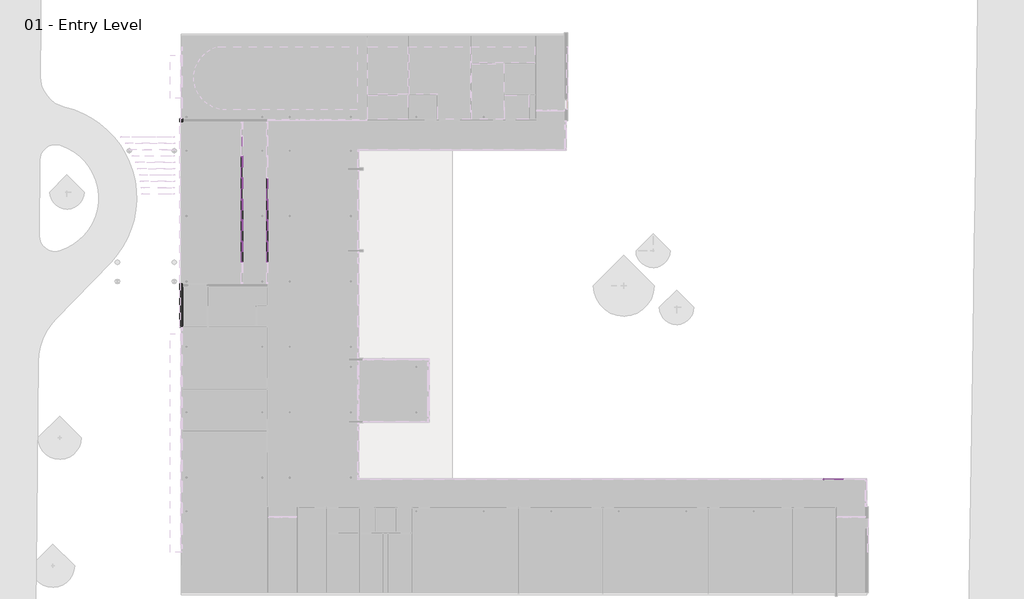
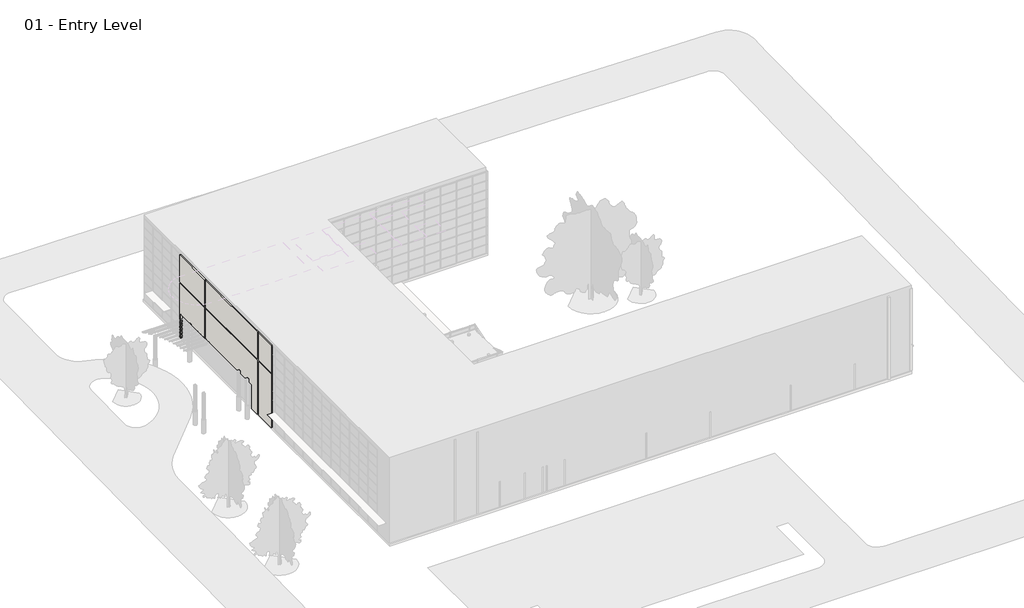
# One storey, part 22 of 34: 77 members, 36 plates, 3 doors, 1 wall.
"""IFC4 building model written with IfcOpenShell, lengths in millimetres."""

from ifc_helpers import new_model, si_unit, origin, place, context, project, spatial, faceted_brep, transform, mapped, element, save
from components import curtain_wall_dbl_glass_curtain_wall_dbl_glass_d7d74fe3, member_2b49869a, member_18e22e2d, member_9e90ae50, member_391b434c, member_5d67b9fc, member_0a82c195, member_a6658832, member_b37ae9b7, member_f95d5bf5, member_ec52078f, system_panel_glazed_1b9d6098, system_panel_glazed_70da479d, system_panel_glazed_c64d999e, system_panel_glazed_ebbf215a, system_panel_glazed_d3a4a7cd, system_panel_glazed_76019dd7, system_panel_glazed_96e4dd87, system_panel_glazed_3ba8046e, system_panel_glazed_56110c51, system_panel_glazed_266ebcb8

model = new_model("IFC4")

# Units and contexts
model_context = context("Model", 3, world=origin())
ifc_project = project(units=[si_unit("LENGTHUNIT", "METRE", prefix="MILLI")], contexts=[model_context])

# Site, building, storey
site = spatial("IfcSite", under=ifc_project)
building = spatial("IfcBuilding", under=site)
storey = spatial("IfcBuildingStorey", under=building, Name="01 - Entry Level", Elevation=0.0)

# Doors
placement = place(None, origin())
curtain_wall_dbl_glass_curtain_wall_dbl_glass_shape = curtain_wall_dbl_glass_curtain_wall_dbl_glass_d7d74fe3(model_context)
element("IfcDoor", 1, ObjectType="Curtain Wall Dbl Glass : Curtain Wall Dbl Glass", at=placement, inside=storey, context=model_context, shape_type="MappedRepresentation", body=[
    mapped(curtain_wall_dbl_glass_curtain_wall_dbl_glass_shape, transform((5982.6207476, 38976.225, 0.0), x_axis=(0.0, 1.0, 0.0), y_axis=(-1.0, 0.0, 0.0), z_axis=(0.0, 0.0, 1.0))),
])
element("IfcDoor", 2, ObjectType="Curtain Wall Dbl Glass : Curtain Wall Dbl Glass", at=placement, inside=storey, context=model_context, shape_type="MappedRepresentation", body=[
    mapped(curtain_wall_dbl_glass_curtain_wall_dbl_glass_shape, transform((5982.6207476, 41071.725, 0.0), x_axis=(0.0, 1.0, 0.0), y_axis=(-1.0, 0.0, 0.0), z_axis=(0.0, 0.0, 1.0))),
])
element("IfcDoor", 3, ObjectType="Curtain Wall Dbl Glass : Curtain Wall Dbl Glass", at=placement, inside=storey, context=model_context, shape_type="MappedRepresentation", body=[
    mapped(curtain_wall_dbl_glass_curtain_wall_dbl_glass_shape, transform((8421.0207476, 38976.225, 0.0), x_axis=(0.0, 1.0, 0.0), y_axis=(-1.0, 0.0, 0.0), z_axis=(0.0, 0.0, 1.0))),
])

# Members
member_shape = member_2b49869a(model_context)
element("IfcMember", 4, ObjectType="Rectangular Mullion : 2.5\" x 5\" rectangular", at=placement, inside=storey, context=model_context, shape_type="MappedRepresentation", body=[
    mapped(member_shape, transform((62040.4207476, 11001.3, 9753.6), x_axis=(-1.0, 0.0, 0.0), y_axis=(0.0, 1.0, 0.0), z_axis=(0.0, 0.0, -1.0))),
])
member_2_shape = member_18e22e2d(model_context)
element("IfcMember", 5, ObjectType="Rectangular Mullion : 2.5\" x 5\" rectangular", at=placement, inside=storey, context=model_context, shape_type="MappedRepresentation", body=[
    mapped(member_2_shape, transform((5982.6207476, 33927.975, 2438.4), x_axis=(0.0, 1.0, 0.0), y_axis=(1.0, 0.0, 0.0), z_axis=(0.0, 0.0, -1.0))),
])
element("IfcMember", 6, ObjectType="Rectangular Mullion : 2.5\" x 5\" rectangular", at=placement, inside=storey, context=model_context, shape_type="MappedRepresentation", body=[
    mapped(member_2_shape, transform((5982.6207476, 35959.975, 2438.4), x_axis=(0.0, 1.0, 0.0), y_axis=(1.0, 0.0, 0.0), z_axis=(0.0, 0.0, -1.0))),
])
element("IfcMember", 7, ObjectType="Rectangular Mullion : 2.5\" x 5\" rectangular", at=placement, inside=storey, context=model_context, shape_type="MappedRepresentation", body=[
    mapped(member_2_shape, transform((5982.6207476, 37928.475, 2438.4), x_axis=(0.0, 1.0, 0.0), y_axis=(1.0, 0.0, 0.0), z_axis=(0.0, 0.0, -1.0))),
])
element("IfcMember", 8, ObjectType="Rectangular Mullion : 2.5\" x 5\" rectangular", at=placement, inside=storey, context=model_context, shape_type="MappedRepresentation", body=[
    mapped(member_2_shape, transform((5982.6207476, 40023.975, 2438.4), x_axis=(0.0, 1.0, 0.0), y_axis=(1.0, 0.0, 0.0), z_axis=(0.0, 0.0, -1.0))),
])
element("IfcMember", 9, ObjectType="Rectangular Mullion : 2.5\" x 5\" rectangular", at=placement, inside=storey, context=model_context, shape_type="MappedRepresentation", body=[
    mapped(member_2_shape, transform((5982.6207476, 42119.475, 2438.4), x_axis=(0.0, 1.0, 0.0), y_axis=(1.0, 0.0, 0.0), z_axis=(0.0, 0.0, -1.0))),
])
element("IfcMember", 10, ObjectType="Rectangular Mullion : 2.5\" x 5\" rectangular", at=placement, inside=storey, context=model_context, shape_type="MappedRepresentation", body=[
    mapped(member_2_shape, transform((8421.0207476, 33927.975, 2438.4), x_axis=(0.0, 1.0, 0.0), y_axis=(1.0, 0.0, 0.0), z_axis=(0.0, 0.0, -1.0))),
])
element("IfcMember", 11, ObjectType="Rectangular Mullion : 2.5\" x 5\" rectangular", at=placement, inside=storey, context=model_context, shape_type="MappedRepresentation", body=[
    mapped(member_2_shape, transform((8421.0207476, 35959.975, 2438.4), x_axis=(0.0, 1.0, 0.0), y_axis=(1.0, 0.0, 0.0), z_axis=(0.0, 0.0, -1.0))),
])
element("IfcMember", 12, ObjectType="Rectangular Mullion : 2.5\" x 5\" rectangular", at=placement, inside=storey, context=model_context, shape_type="MappedRepresentation", body=[
    mapped(member_2_shape, transform((8421.0207476, 37928.475, 2438.4), x_axis=(0.0, 1.0, 0.0), y_axis=(1.0, 0.0, 0.0), z_axis=(0.0, 0.0, -1.0))),
])
member_3_shape = member_9e90ae50(model_context)
element("IfcMember", 13, ObjectType="Rectangular Mullion : 2.5\" x 5\" rectangular", at=placement, inside=storey, context=model_context, shape_type="MappedRepresentation", body=[
    mapped(member_3_shape, transform((62072.1707476, 11001.3, 6096.0), x_axis=(0.0, 0.0, 1.0), y_axis=(0.0, 1.0, 0.0), z_axis=(-1.0, 0.0, 0.0))),
])
element("IfcMember", 14, ObjectType="Rectangular Mullion : 2.5\" x 5\" rectangular", at=placement, inside=storey, context=model_context, shape_type="MappedRepresentation", body=[
    mapped(member_3_shape, transform((62072.1707476, 11001.3, 7315.2), x_axis=(0.0, 0.0, 1.0), y_axis=(0.0, 1.0, 0.0), z_axis=(-1.0, 0.0, 0.0))),
])
element("IfcMember", 15, ObjectType="Rectangular Mullion : 2.5\" x 5\" rectangular", at=placement, inside=storey, context=model_context, shape_type="MappedRepresentation", body=[
    mapped(member_3_shape, transform((62072.1707476, 11001.3, 8534.4), x_axis=(0.0, 0.0, 1.0), y_axis=(0.0, 1.0, 0.0), z_axis=(-1.0, 0.0, 0.0))),
])
element("IfcMember", 16, ObjectType="Rectangular Mullion : 2.5\" x 5\" rectangular", at=placement, inside=storey, context=model_context, shape_type="MappedRepresentation", body=[
    mapped(member_3_shape, transform((62072.1707476, 11001.3, 9753.6), x_axis=(0.0, 0.0, 1.0), y_axis=(0.0, 1.0, 0.0), z_axis=(-1.0, 0.0, 0.0))),
])
element("IfcMember", 17, ObjectType="Rectangular Mullion : 2.5\" x 5\" rectangular", at=placement, inside=storey, context=model_context, shape_type="MappedRepresentation", body=[
    mapped(member_shape, transform((62040.4207476, 11001.3, 0.0), x_axis=(-1.0, 0.0, 0.0), y_axis=(0.0, 1.0, 0.0), z_axis=(0.0, 0.0, -1.0))),
])
element("IfcMember", 18, ObjectType="Rectangular Mullion : 2.5\" x 5\" rectangular", at=placement, inside=storey, context=model_context, shape_type="MappedRepresentation", body=[
    mapped(member_shape, transform((62040.4207476, 11001.3, 1219.2), x_axis=(-1.0, 0.0, 0.0), y_axis=(0.0, 1.0, 0.0), z_axis=(0.0, 0.0, -1.0))),
])
element("IfcMember", 19, ObjectType="Rectangular Mullion : 2.5\" x 5\" rectangular", at=placement, inside=storey, context=model_context, shape_type="MappedRepresentation", body=[
    mapped(member_shape, transform((62040.4207476, 11001.3, 2438.4), x_axis=(-1.0, 0.0, 0.0), y_axis=(0.0, 1.0, 0.0), z_axis=(0.0, 0.0, -1.0))),
])
element("IfcMember", 20, ObjectType="Rectangular Mullion : 2.5\" x 5\" rectangular", at=placement, inside=storey, context=model_context, shape_type="MappedRepresentation", body=[
    mapped(member_shape, transform((62040.4207476, 11001.3, 3657.6), x_axis=(-1.0, 0.0, 0.0), y_axis=(0.0, 1.0, 0.0), z_axis=(0.0, 0.0, -1.0))),
])
element("IfcMember", 21, ObjectType="Rectangular Mullion : 2.5\" x 5\" rectangular", at=placement, inside=storey, context=model_context, shape_type="MappedRepresentation", body=[
    mapped(member_shape, transform((62040.4207476, 11001.3, 4876.8), x_axis=(-1.0, 0.0, 0.0), y_axis=(0.0, 1.0, 0.0), z_axis=(0.0, 0.0, -1.0))),
])
element("IfcMember", 22, ObjectType="Rectangular Mullion : 2.5\" x 5\" rectangular", at=placement, inside=storey, context=model_context, shape_type="MappedRepresentation", body=[
    mapped(member_shape, transform((62040.4207476, 11001.3, 6096.0), x_axis=(-1.0, 0.0, 0.0), y_axis=(0.0, 1.0, 0.0), z_axis=(0.0, 0.0, -1.0))),
])
element("IfcMember", 23, ObjectType="Rectangular Mullion : 2.5\" x 5\" rectangular", at=placement, inside=storey, context=model_context, shape_type="MappedRepresentation", body=[
    mapped(member_shape, transform((62040.4207476, 11001.3, 7315.2), x_axis=(-1.0, 0.0, 0.0), y_axis=(0.0, 1.0, 0.0), z_axis=(0.0, 0.0, -1.0))),
])
element("IfcMember", 24, ObjectType="Rectangular Mullion : 2.5\" x 5\" rectangular", at=placement, inside=storey, context=model_context, shape_type="MappedRepresentation", body=[
    mapped(member_shape, transform((62040.4207476, 11001.3, 8534.4), x_axis=(-1.0, 0.0, 0.0), y_axis=(0.0, 1.0, 0.0), z_axis=(0.0, 0.0, -1.0))),
])
member_4_shape = member_391b434c(model_context)
element("IfcMember", 25, ObjectType="Rectangular Mullion : 2.5\" x 5\" rectangular", at=placement, inside=storey, context=model_context, shape_type="MappedRepresentation", body=[
    mapped(member_4_shape, transform((5982.6207476, 33896.225, 3403.6), x_axis=(0.0, 0.0, 1.0), y_axis=(1.0, 0.0, 0.0), z_axis=(0.0, 1.0, 0.0))),
])
element("IfcMember", 26, ObjectType="Rectangular Mullion : 2.5\" x 5\" rectangular", at=placement, inside=storey, context=model_context, shape_type="MappedRepresentation", body=[
    mapped(member_4_shape, transform((5982.6207476, 35928.225, 3403.6), x_axis=(0.0, 0.0, 1.0), y_axis=(1.0, 0.0, 0.0), z_axis=(0.0, 1.0, 0.0))),
])
element("IfcMember", 27, ObjectType="Rectangular Mullion : 2.5\" x 5\" rectangular", at=placement, inside=storey, context=model_context, shape_type="MappedRepresentation", body=[
    mapped(member_4_shape, transform((8421.0207476, 33896.225, 3403.6), x_axis=(0.0, 0.0, 1.0), y_axis=(1.0, 0.0, 0.0), z_axis=(0.0, 1.0, 0.0))),
])
element("IfcMember", 28, ObjectType="Rectangular Mullion : 2.5\" x 5\" rectangular", at=placement, inside=storey, context=model_context, shape_type="MappedRepresentation", body=[
    mapped(member_4_shape, transform((8421.0207476, 35928.225, 3403.6), x_axis=(0.0, 0.0, 1.0), y_axis=(1.0, 0.0, 0.0), z_axis=(0.0, 1.0, 0.0))),
])
element("IfcMember", 29, ObjectType="Rectangular Mullion : 2.5\" x 5\" rectangular", at=placement, inside=storey, context=model_context, shape_type="MappedRepresentation", body=[
    mapped(member_4_shape, transform((5982.6207476, 33959.725, 0.0), x_axis=(0.0, 0.0, -1.0), y_axis=(1.0, 0.0, 0.0), z_axis=(0.0, -1.0, 0.0))),
])
element("IfcMember", 30, ObjectType="Rectangular Mullion : 2.5\" x 5\" rectangular", at=placement, inside=storey, context=model_context, shape_type="MappedRepresentation", body=[
    mapped(member_4_shape, transform((8421.0207476, 33959.725, 0.0), x_axis=(0.0, 0.0, -1.0), y_axis=(1.0, 0.0, 0.0), z_axis=(0.0, -1.0, 0.0))),
])
element("IfcMember", 31, ObjectType="Rectangular Mullion : 2.5\" x 5\" rectangular", at=placement, inside=storey, context=model_context, shape_type="MappedRepresentation", body=[
    mapped(member_3_shape, transform((5982.6207476, 33896.225, 1219.2), x_axis=(0.0, 0.0, 1.0), y_axis=(1.0, 0.0, 0.0), z_axis=(0.0, 1.0, 0.0))),
])
element("IfcMember", 32, ObjectType="Rectangular Mullion : 2.5\" x 5\" rectangular", at=placement, inside=storey, context=model_context, shape_type="MappedRepresentation", body=[
    mapped(member_3_shape, transform((5982.6207476, 35928.225, 1219.2), x_axis=(0.0, 0.0, 1.0), y_axis=(1.0, 0.0, 0.0), z_axis=(0.0, 1.0, 0.0))),
])
element("IfcMember", 33, ObjectType="Rectangular Mullion : 2.5\" x 5\" rectangular", at=placement, inside=storey, context=model_context, shape_type="MappedRepresentation", body=[
    mapped(member_3_shape, transform((5982.6207476, 33896.225, 2438.4), x_axis=(0.0, 0.0, 1.0), y_axis=(1.0, 0.0, 0.0), z_axis=(0.0, 1.0, 0.0))),
])
element("IfcMember", 34, ObjectType="Rectangular Mullion : 2.5\" x 5\" rectangular", at=placement, inside=storey, context=model_context, shape_type="MappedRepresentation", body=[
    mapped(member_3_shape, transform((5982.6207476, 35928.225, 2438.4), x_axis=(0.0, 0.0, 1.0), y_axis=(1.0, 0.0, 0.0), z_axis=(0.0, 1.0, 0.0))),
])
element("IfcMember", 35, ObjectType="Rectangular Mullion : 2.5\" x 5\" rectangular", at=placement, inside=storey, context=model_context, shape_type="MappedRepresentation", body=[
    mapped(member_3_shape, transform((8421.0207476, 33896.225, 1219.2), x_axis=(0.0, 0.0, 1.0), y_axis=(1.0, 0.0, 0.0), z_axis=(0.0, 1.0, 0.0))),
])
element("IfcMember", 36, ObjectType="Rectangular Mullion : 2.5\" x 5\" rectangular", at=placement, inside=storey, context=model_context, shape_type="MappedRepresentation", body=[
    mapped(member_3_shape, transform((8421.0207476, 35928.225, 1219.2), x_axis=(0.0, 0.0, 1.0), y_axis=(1.0, 0.0, 0.0), z_axis=(0.0, 1.0, 0.0))),
])
element("IfcMember", 37, ObjectType="Rectangular Mullion : 2.5\" x 5\" rectangular", at=placement, inside=storey, context=model_context, shape_type="MappedRepresentation", body=[
    mapped(member_3_shape, transform((8421.0207476, 33896.225, 2438.4), x_axis=(0.0, 0.0, 1.0), y_axis=(1.0, 0.0, 0.0), z_axis=(0.0, 1.0, 0.0))),
])
element("IfcMember", 38, ObjectType="Rectangular Mullion : 2.5\" x 5\" rectangular", at=placement, inside=storey, context=model_context, shape_type="MappedRepresentation", body=[
    mapped(member_3_shape, transform((8421.0207476, 35928.225, 2438.4), x_axis=(0.0, 0.0, 1.0), y_axis=(1.0, 0.0, 0.0), z_axis=(0.0, 1.0, 0.0))),
])
element("IfcMember", 39, ObjectType="Rectangular Mullion : 2.5\" x 5\" rectangular", at=placement, inside=storey, context=model_context, shape_type="MappedRepresentation", body=[
    mapped(member_shape, transform((5982.6207476, 33927.975, 0.0), x_axis=(0.0, 1.0, 0.0), y_axis=(1.0, 0.0, 0.0), z_axis=(0.0, 0.0, -1.0))),
])
element("IfcMember", 40, ObjectType="Rectangular Mullion : 2.5\" x 5\" rectangular", at=placement, inside=storey, context=model_context, shape_type="MappedRepresentation", body=[
    mapped(member_shape, transform((5982.6207476, 35959.975, 0.0), x_axis=(0.0, 1.0, 0.0), y_axis=(1.0, 0.0, 0.0), z_axis=(0.0, 0.0, -1.0))),
])
element("IfcMember", 41, ObjectType="Rectangular Mullion : 2.5\" x 5\" rectangular", at=placement, inside=storey, context=model_context, shape_type="MappedRepresentation", body=[
    mapped(member_shape, transform((5982.6207476, 37928.475, 0.0), x_axis=(0.0, 1.0, 0.0), y_axis=(1.0, 0.0, 0.0), z_axis=(0.0, 0.0, -1.0))),
])
element("IfcMember", 42, ObjectType="Rectangular Mullion : 2.5\" x 5\" rectangular", at=placement, inside=storey, context=model_context, shape_type="MappedRepresentation", body=[
    mapped(member_shape, transform((5982.6207476, 42119.475, 0.0), x_axis=(0.0, 1.0, 0.0), y_axis=(1.0, 0.0, 0.0), z_axis=(0.0, 0.0, -1.0))),
])
element("IfcMember", 43, ObjectType="Rectangular Mullion : 2.5\" x 5\" rectangular", at=placement, inside=storey, context=model_context, shape_type="MappedRepresentation", body=[
    mapped(member_shape, transform((8421.0207476, 33927.975, 0.0), x_axis=(0.0, 1.0, 0.0), y_axis=(1.0, 0.0, 0.0), z_axis=(0.0, 0.0, -1.0))),
])
element("IfcMember", 44, ObjectType="Rectangular Mullion : 2.5\" x 5\" rectangular", at=placement, inside=storey, context=model_context, shape_type="MappedRepresentation", body=[
    mapped(member_shape, transform((8421.0207476, 35959.975, 0.0), x_axis=(0.0, 1.0, 0.0), y_axis=(1.0, 0.0, 0.0), z_axis=(0.0, 0.0, -1.0))),
])
element("IfcMember", 45, ObjectType="Rectangular Mullion : 2.5\" x 5\" rectangular", at=placement, inside=storey, context=model_context, shape_type="MappedRepresentation", body=[
    mapped(member_shape, transform((8421.0207476, 37928.475, 0.0), x_axis=(0.0, 1.0, 0.0), y_axis=(1.0, 0.0, 0.0), z_axis=(0.0, 0.0, -1.0))),
])
element("IfcMember", 46, ObjectType="Rectangular Mullion : 2.5\" x 5\" rectangular", at=placement, inside=storey, context=model_context, shape_type="MappedRepresentation", body=[
    mapped(member_shape, transform((5982.6207476, 40023.975, 0.0), x_axis=(0.0, 1.0, 0.0), y_axis=(1.0, 0.0, 0.0), z_axis=(0.0, 0.0, -1.0))),
])
member_5_shape = member_5d67b9fc(model_context)
element("IfcMember", 47, ObjectType="Rectangular Mullion : 2.5\" x 5\" rectangular", at=placement, inside=storey, context=model_context, shape_type="MappedRepresentation", body=[
    mapped(member_5_shape, transform((5982.6207476, 37928.475, 2165.35), x_axis=(0.0, 1.0, 0.0), y_axis=(1.0, 0.0, 0.0), z_axis=(0.0, 0.0, -1.0))),
])
element("IfcMember", 48, ObjectType="Rectangular Mullion : 2.5\" x 5\" rectangular", at=placement, inside=storey, context=model_context, shape_type="MappedRepresentation", body=[
    mapped(member_5_shape, transform((5982.6207476, 40023.975, 2165.35), x_axis=(0.0, 1.0, 0.0), y_axis=(1.0, 0.0, 0.0), z_axis=(0.0, 0.0, -1.0))),
])
element("IfcMember", 49, ObjectType="Rectangular Mullion : 2.5\" x 5\" rectangular", at=placement, inside=storey, context=model_context, shape_type="MappedRepresentation", body=[
    mapped(member_5_shape, transform((5982.6207476, 42119.475, 2165.35), x_axis=(0.0, 1.0, 0.0), y_axis=(1.0, 0.0, 0.0), z_axis=(0.0, 0.0, -1.0))),
])
element("IfcMember", 50, ObjectType="Rectangular Mullion : 2.5\" x 5\" rectangular", at=placement, inside=storey, context=model_context, shape_type="MappedRepresentation", body=[
    mapped(member_5_shape, transform((8421.0207476, 37928.475, 2165.35), x_axis=(0.0, 1.0, 0.0), y_axis=(1.0, 0.0, 0.0), z_axis=(0.0, 0.0, -1.0))),
])
element("IfcMember", 51, ObjectType="Rectangular Mullion : 2.5\" x 5\" rectangular", at=placement, inside=storey, context=model_context, shape_type="MappedRepresentation", body=[
    mapped(member_5_shape, transform((5982.6207476, 33927.975, 2165.35), x_axis=(0.0, 1.0, 0.0), y_axis=(1.0, 0.0, 0.0), z_axis=(0.0, 0.0, -1.0))),
])
element("IfcMember", 52, ObjectType="Rectangular Mullion : 2.5\" x 5\" rectangular", at=placement, inside=storey, context=model_context, shape_type="MappedRepresentation", body=[
    mapped(member_5_shape, transform((5982.6207476, 35959.975, 2165.35), x_axis=(0.0, 1.0, 0.0), y_axis=(1.0, 0.0, 0.0), z_axis=(0.0, 0.0, -1.0))),
])
element("IfcMember", 53, ObjectType="Rectangular Mullion : 2.5\" x 5\" rectangular", at=placement, inside=storey, context=model_context, shape_type="MappedRepresentation", body=[
    mapped(member_5_shape, transform((8421.0207476, 33927.975, 2165.35), x_axis=(0.0, 1.0, 0.0), y_axis=(1.0, 0.0, 0.0), z_axis=(0.0, 0.0, -1.0))),
])
element("IfcMember", 54, ObjectType="Rectangular Mullion : 2.5\" x 5\" rectangular", at=placement, inside=storey, context=model_context, shape_type="MappedRepresentation", body=[
    mapped(member_5_shape, transform((8421.0207476, 35959.975, 2165.35), x_axis=(0.0, 1.0, 0.0), y_axis=(1.0, 0.0, 0.0), z_axis=(0.0, 0.0, -1.0))),
])
member_6_shape = member_0a82c195(model_context)
element("IfcMember", 55, ObjectType="Rectangular Mullion : 2.5\" x 5\" rectangular", at=placement, inside=storey, context=model_context, shape_type="MappedRepresentation", body=[
    mapped(member_6_shape, transform((5982.6207476, 39992.225, 3403.6), x_axis=(0.0, 0.0, 1.0), y_axis=(1.0, 0.0, 0.0), z_axis=(0.0, 1.0, 0.0))),
])
element("IfcMember", 56, ObjectType="Rectangular Mullion : 2.5\" x 5\" rectangular", at=placement, inside=storey, context=model_context, shape_type="MappedRepresentation", body=[
    mapped(member_6_shape, transform((5982.6207476, 42087.725, 3403.6), x_axis=(0.0, 0.0, 1.0), y_axis=(1.0, 0.0, 0.0), z_axis=(0.0, 1.0, 0.0))),
])
element("IfcMember", 57, ObjectType="Rectangular Mullion : 2.5\" x 5\" rectangular", at=placement, inside=storey, context=model_context, shape_type="MappedRepresentation", body=[
    mapped(member_6_shape, transform((8421.0207476, 39992.225, 3403.6), x_axis=(0.0, 0.0, 1.0), y_axis=(1.0, 0.0, 0.0), z_axis=(0.0, 1.0, 0.0))),
])
member_7_shape = member_a6658832(model_context)
element("IfcMember", 58, ObjectType="Rectangular Mullion : 2.5\" x 5\" rectangular", at=placement, inside=storey, context=model_context, shape_type="MappedRepresentation", body=[
    mapped(member_7_shape, transform((5982.6207476, 37896.725, 3403.6), x_axis=(0.0, 0.0, 1.0), y_axis=(1.0, 0.0, 0.0), z_axis=(0.0, 1.0, 0.0))),
])
element("IfcMember", 59, ObjectType="Rectangular Mullion : 2.5\" x 5\" rectangular", at=placement, inside=storey, context=model_context, shape_type="MappedRepresentation", body=[
    mapped(member_7_shape, transform((8421.0207476, 37896.725, 3403.6), x_axis=(0.0, 0.0, 1.0), y_axis=(1.0, 0.0, 0.0), z_axis=(0.0, 1.0, 0.0))),
])
element("IfcMember", 60, ObjectType="Rectangular Mullion : 2.5\" x 5\" rectangular", at=placement, inside=storey, context=model_context, shape_type="MappedRepresentation", body=[
    mapped(member_7_shape, transform((5982.6207476, 35991.725, 0.0), x_axis=(0.0, 0.0, -1.0), y_axis=(1.0, 0.0, 0.0), z_axis=(0.0, -1.0, 0.0))),
])
element("IfcMember", 61, ObjectType="Rectangular Mullion : 2.5\" x 5\" rectangular", at=placement, inside=storey, context=model_context, shape_type="MappedRepresentation", body=[
    mapped(member_7_shape, transform((5982.6207476, 42151.225, 0.0), x_axis=(0.0, 0.0, -1.0), y_axis=(1.0, 0.0, 0.0), z_axis=(0.0, -1.0, 0.0))),
])
element("IfcMember", 62, ObjectType="Rectangular Mullion : 2.5\" x 5\" rectangular", at=placement, inside=storey, context=model_context, shape_type="MappedRepresentation", body=[
    mapped(member_7_shape, transform((8421.0207476, 35991.725, 0.0), x_axis=(0.0, 0.0, -1.0), y_axis=(1.0, 0.0, 0.0), z_axis=(0.0, -1.0, 0.0))),
])
member_8_shape = member_b37ae9b7(model_context)
element("IfcMember", 63, ObjectType="Rectangular Mullion : 2.5\" x 5\" rectangular", at=placement, inside=storey, context=model_context, shape_type="MappedRepresentation", body=[
    mapped(member_8_shape, transform((5982.6207476, 37896.725, 1219.2), x_axis=(0.0, 0.0, 1.0), y_axis=(1.0, 0.0, 0.0), z_axis=(0.0, 1.0, 0.0))),
])
element("IfcMember", 64, ObjectType="Rectangular Mullion : 2.5\" x 5\" rectangular", at=placement, inside=storey, context=model_context, shape_type="MappedRepresentation", body=[
    mapped(member_8_shape, transform((5982.6207476, 37896.725, 2438.4), x_axis=(0.0, 0.0, 1.0), y_axis=(1.0, 0.0, 0.0), z_axis=(0.0, 1.0, 0.0))),
])
element("IfcMember", 65, ObjectType="Rectangular Mullion : 2.5\" x 5\" rectangular", at=placement, inside=storey, context=model_context, shape_type="MappedRepresentation", body=[
    mapped(member_8_shape, transform((8421.0207476, 37896.725, 1219.2), x_axis=(0.0, 0.0, 1.0), y_axis=(1.0, 0.0, 0.0), z_axis=(0.0, 1.0, 0.0))),
])
element("IfcMember", 66, ObjectType="Rectangular Mullion : 2.5\" x 5\" rectangular", at=placement, inside=storey, context=model_context, shape_type="MappedRepresentation", body=[
    mapped(member_8_shape, transform((8421.0207476, 37896.725, 2438.4), x_axis=(0.0, 0.0, 1.0), y_axis=(1.0, 0.0, 0.0), z_axis=(0.0, 1.0, 0.0))),
])
member_9_shape = member_f95d5bf5(model_context)
element("IfcMember", 67, ObjectType="Rectangular Mullion : 2.5\" x 5\" rectangular", at=placement, inside=storey, context=model_context, shape_type="MappedRepresentation", body=[
    mapped(member_9_shape, transform((5982.6207476, 39992.225, 2438.4), x_axis=(0.0, 0.0, 1.0), y_axis=(1.0, 0.0, 0.0), z_axis=(0.0, 1.0, 0.0))),
])
element("IfcMember", 68, ObjectType="Rectangular Mullion : 2.5\" x 5\" rectangular", at=placement, inside=storey, context=model_context, shape_type="MappedRepresentation", body=[
    mapped(member_9_shape, transform((5982.6207476, 42087.725, 2438.4), x_axis=(0.0, 0.0, 1.0), y_axis=(1.0, 0.0, 0.0), z_axis=(0.0, 1.0, 0.0))),
])
element("IfcMember", 69, ObjectType="Rectangular Mullion : 2.5\" x 5\" rectangular", at=placement, inside=storey, context=model_context, shape_type="MappedRepresentation", body=[
    mapped(member_9_shape, transform((5982.6207476, 42087.725, 2165.35), x_axis=(0.0, 0.0, 1.0), y_axis=(1.0, 0.0, 0.0), z_axis=(0.0, 1.0, 0.0))),
])
element("IfcMember", 70, ObjectType="Rectangular Mullion : 2.5\" x 5\" rectangular", at=placement, inside=storey, context=model_context, shape_type="MappedRepresentation", body=[
    mapped(member_9_shape, transform((5982.6207476, 39992.225, 2165.35), x_axis=(0.0, 0.0, 1.0), y_axis=(1.0, 0.0, 0.0), z_axis=(0.0, 1.0, 0.0))),
])
element("IfcMember", 71, ObjectType="Rectangular Mullion : 2.5\" x 5\" rectangular", at=placement, inside=storey, context=model_context, shape_type="MappedRepresentation", body=[
    mapped(member_9_shape, transform((8421.0207476, 39992.225, 2438.4), x_axis=(0.0, 0.0, 1.0), y_axis=(1.0, 0.0, 0.0), z_axis=(0.0, 1.0, 0.0))),
])
element("IfcMember", 72, ObjectType="Rectangular Mullion : 2.5\" x 5\" rectangular", at=placement, inside=storey, context=model_context, shape_type="MappedRepresentation", body=[
    mapped(member_9_shape, transform((8421.0207476, 39992.225, 2165.35), x_axis=(0.0, 0.0, 1.0), y_axis=(1.0, 0.0, 0.0), z_axis=(0.0, 1.0, 0.0))),
])
member_10_shape = member_ec52078f(model_context)
element("IfcMember", 73, ObjectType="Rectangular Mullion : 2.5\" x 5\" rectangular", at=placement, inside=storey, context=model_context, shape_type="MappedRepresentation", body=[
    mapped(member_10_shape, transform((5982.6207476, 33927.975, 1219.2), x_axis=(0.0, 1.0, 0.0), y_axis=(1.0, 0.0, 0.0), z_axis=(0.0, 0.0, -1.0))),
])
element("IfcMember", 74, ObjectType="Rectangular Mullion : 2.5\" x 5\" rectangular", at=placement, inside=storey, context=model_context, shape_type="MappedRepresentation", body=[
    mapped(member_10_shape, transform((5982.6207476, 35959.975, 1219.2), x_axis=(0.0, 1.0, 0.0), y_axis=(1.0, 0.0, 0.0), z_axis=(0.0, 0.0, -1.0))),
])
element("IfcMember", 75, ObjectType="Rectangular Mullion : 2.5\" x 5\" rectangular", at=placement, inside=storey, context=model_context, shape_type="MappedRepresentation", body=[
    mapped(member_10_shape, transform((8421.0207476, 33927.975, 1219.2), x_axis=(0.0, 1.0, 0.0), y_axis=(1.0, 0.0, 0.0), z_axis=(0.0, 0.0, -1.0))),
])
element("IfcMember", 76, ObjectType="Rectangular Mullion : 2.5\" x 5\" rectangular", at=placement, inside=storey, context=model_context, shape_type="MappedRepresentation", body=[
    mapped(member_10_shape, transform((8421.0207476, 35959.975, 1219.2), x_axis=(0.0, 1.0, 0.0), y_axis=(1.0, 0.0, 0.0), z_axis=(0.0, 0.0, -1.0))),
])
element("IfcMember", 77, ObjectType="Rectangular Mullion : 2.5\" x 5\" rectangular", at=placement, inside=storey, context=model_context, shape_type="MappedRepresentation", body=[
    mapped(member_10_shape, transform((5982.6207476, 40023.975, 1219.2), x_axis=(0.0, 1.0, 0.0), y_axis=(1.0, 0.0, 0.0), z_axis=(0.0, 0.0, -1.0))),
])
element("IfcMember", 78, ObjectType="Rectangular Mullion : 2.5\" x 5\" rectangular", at=placement, inside=storey, context=model_context, shape_type="MappedRepresentation", body=[
    mapped(member_10_shape, transform((5982.6207476, 37928.475, 1219.2), x_axis=(0.0, 1.0, 0.0), y_axis=(1.0, 0.0, 0.0), z_axis=(0.0, 0.0, -1.0))),
])
element("IfcMember", 79, ObjectType="Rectangular Mullion : 2.5\" x 5\" rectangular", at=placement, inside=storey, context=model_context, shape_type="MappedRepresentation", body=[
    mapped(member_10_shape, transform((5982.6207476, 42119.475, 1219.2), x_axis=(0.0, 1.0, 0.0), y_axis=(1.0, 0.0, 0.0), z_axis=(0.0, 0.0, -1.0))),
])
element("IfcMember", 80, ObjectType="Rectangular Mullion : 2.5\" x 5\" rectangular", at=placement, inside=storey, context=model_context, shape_type="MappedRepresentation", body=[
    mapped(member_10_shape, transform((8421.0207476, 37928.475, 1219.2), x_axis=(0.0, 1.0, 0.0), y_axis=(1.0, 0.0, 0.0), z_axis=(0.0, 0.0, -1.0))),
])

# Plates
system_panel_glazed_shape = system_panel_glazed_1b9d6098(model_context)
element("IfcPlate", 81, ObjectType="System Panel : Glazed", at=placement, inside=storey, context=model_context, shape_type="MappedRepresentation", body=[
    mapped(system_panel_glazed_shape, transform((63056.4207476, 11001.3, 63.5), x_axis=(-1.0, 0.0, 0.0), y_axis=(0.0, -1.0, 0.0), z_axis=(0.0, 0.0, 1.0))),
])
element("IfcPlate", 82, ObjectType="System Panel : Glazed", at=placement, inside=storey, context=model_context, shape_type="MappedRepresentation", body=[
    mapped(system_panel_glazed_shape, transform((63056.4207476, 11001.3, 9785.35), x_axis=(-1.0, 0.0, 0.0), y_axis=(0.0, -1.0, 0.0), z_axis=(0.0, 0.0, 1.0))),
])
system_panel_glazed_2_shape = system_panel_glazed_70da479d(model_context)
element("IfcPlate", 83, ObjectType="System Panel : Glazed", at=placement, inside=storey, context=model_context, shape_type="MappedRepresentation", body=[
    mapped(system_panel_glazed_2_shape, transform((63056.4207476, 11001.3, 1250.95), x_axis=(-1.0, 0.0, 0.0), y_axis=(0.0, -1.0, 0.0), z_axis=(0.0, 0.0, 1.0))),
])
element("IfcPlate", 84, ObjectType="System Panel : Glazed", at=placement, inside=storey, context=model_context, shape_type="MappedRepresentation", body=[
    mapped(system_panel_glazed_2_shape, transform((63056.4207476, 11001.3, 2470.15), x_axis=(-1.0, 0.0, 0.0), y_axis=(0.0, -1.0, 0.0), z_axis=(0.0, 0.0, 1.0))),
])
element("IfcPlate", 85, ObjectType="System Panel : Glazed", at=placement, inside=storey, context=model_context, shape_type="MappedRepresentation", body=[
    mapped(system_panel_glazed_2_shape, transform((63056.4207476, 11001.3, 3689.35), x_axis=(-1.0, 0.0, 0.0), y_axis=(0.0, -1.0, 0.0), z_axis=(0.0, 0.0, 1.0))),
])
element("IfcPlate", 86, ObjectType="System Panel : Glazed", at=placement, inside=storey, context=model_context, shape_type="MappedRepresentation", body=[
    mapped(system_panel_glazed_2_shape, transform((63056.4207476, 11001.3, 4908.55), x_axis=(-1.0, 0.0, 0.0), y_axis=(0.0, -1.0, 0.0), z_axis=(0.0, 0.0, 1.0))),
])
element("IfcPlate", 87, ObjectType="System Panel : Glazed", at=placement, inside=storey, context=model_context, shape_type="MappedRepresentation", body=[
    mapped(system_panel_glazed_2_shape, transform((63056.4207476, 11001.3, 6127.75), x_axis=(-1.0, 0.0, 0.0), y_axis=(0.0, -1.0, 0.0), z_axis=(0.0, 0.0, 1.0))),
])
element("IfcPlate", 88, ObjectType="System Panel : Glazed", at=placement, inside=storey, context=model_context, shape_type="MappedRepresentation", body=[
    mapped(system_panel_glazed_2_shape, transform((63056.4207476, 11001.3, 7346.95), x_axis=(-1.0, 0.0, 0.0), y_axis=(0.0, -1.0, 0.0), z_axis=(0.0, 0.0, 1.0))),
])
element("IfcPlate", 89, ObjectType="System Panel : Glazed", at=placement, inside=storey, context=model_context, shape_type="MappedRepresentation", body=[
    mapped(system_panel_glazed_2_shape, transform((63056.4207476, 11001.3, 8566.15), x_axis=(-1.0, 0.0, 0.0), y_axis=(0.0, -1.0, 0.0), z_axis=(0.0, 0.0, 1.0))),
])
system_panel_glazed_3_shape = system_panel_glazed_c64d999e(model_context)
element("IfcPlate", 90, ObjectType="System Panel : Glazed", at=placement, inside=storey, context=model_context, shape_type="MappedRepresentation", body=[
    mapped(system_panel_glazed_3_shape, transform((5982.6207476, 32911.975, 63.5), x_axis=(0.0, 1.0, 0.0), y_axis=(-1.0, 0.0, 0.0), z_axis=(0.0, 0.0, 1.0))),
])
element("IfcPlate", 91, ObjectType="System Panel : Glazed", at=placement, inside=storey, context=model_context, shape_type="MappedRepresentation", body=[
    mapped(system_panel_glazed_3_shape, transform((5982.6207476, 34943.975, 63.5), x_axis=(0.0, 1.0, 0.0), y_axis=(-1.0, 0.0, 0.0), z_axis=(0.0, 0.0, 1.0))),
])
element("IfcPlate", 92, ObjectType="System Panel : Glazed", at=placement, inside=storey, context=model_context, shape_type="MappedRepresentation", body=[
    mapped(system_panel_glazed_3_shape, transform((8421.0207476, 32911.975, 63.5), x_axis=(0.0, 1.0, 0.0), y_axis=(-1.0, 0.0, 0.0), z_axis=(0.0, 0.0, 1.0))),
])
element("IfcPlate", 93, ObjectType="System Panel : Glazed", at=placement, inside=storey, context=model_context, shape_type="MappedRepresentation", body=[
    mapped(system_panel_glazed_3_shape, transform((8421.0207476, 34943.975, 63.5), x_axis=(0.0, 1.0, 0.0), y_axis=(-1.0, 0.0, 0.0), z_axis=(0.0, 0.0, 1.0))),
])
system_panel_glazed_4_shape = system_panel_glazed_ebbf215a(model_context)
element("IfcPlate", 94, ObjectType="System Panel : Glazed", at=placement, inside=storey, context=model_context, shape_type="MappedRepresentation", body=[
    mapped(system_panel_glazed_4_shape, transform((5982.6207476, 32911.975, 2470.15), x_axis=(0.0, 1.0, 0.0), y_axis=(-1.0, 0.0, 0.0), z_axis=(0.0, 0.0, 1.0))),
])
element("IfcPlate", 95, ObjectType="System Panel : Glazed", at=placement, inside=storey, context=model_context, shape_type="MappedRepresentation", body=[
    mapped(system_panel_glazed_4_shape, transform((5982.6207476, 34943.975, 2470.15), x_axis=(0.0, 1.0, 0.0), y_axis=(-1.0, 0.0, 0.0), z_axis=(0.0, 0.0, 1.0))),
])
element("IfcPlate", 96, ObjectType="System Panel : Glazed", at=placement, inside=storey, context=model_context, shape_type="MappedRepresentation", body=[
    mapped(system_panel_glazed_4_shape, transform((8421.0207476, 32911.975, 2470.15), x_axis=(0.0, 1.0, 0.0), y_axis=(-1.0, 0.0, 0.0), z_axis=(0.0, 0.0, 1.0))),
])
element("IfcPlate", 97, ObjectType="System Panel : Glazed", at=placement, inside=storey, context=model_context, shape_type="MappedRepresentation", body=[
    mapped(system_panel_glazed_4_shape, transform((8421.0207476, 34943.975, 2470.15), x_axis=(0.0, 1.0, 0.0), y_axis=(-1.0, 0.0, 0.0), z_axis=(0.0, 0.0, 1.0))),
])
system_panel_glazed_5_shape = system_panel_glazed_d3a4a7cd(model_context)
element("IfcPlate", 98, ObjectType="System Panel : Glazed", at=placement, inside=storey, context=model_context, shape_type="MappedRepresentation", body=[
    mapped(system_panel_glazed_5_shape, transform((5982.6207476, 36944.225, 63.5), x_axis=(0.0, 1.0, 0.0), y_axis=(-1.0, 0.0, 0.0), z_axis=(0.0, 0.0, 1.0))),
])
element("IfcPlate", 99, ObjectType="System Panel : Glazed", at=placement, inside=storey, context=model_context, shape_type="MappedRepresentation", body=[
    mapped(system_panel_glazed_5_shape, transform((5982.6207476, 43103.725, 63.5), x_axis=(0.0, 1.0, 0.0), y_axis=(-1.0, 0.0, 0.0), z_axis=(0.0, 0.0, 1.0))),
])
element("IfcPlate", 100, ObjectType="System Panel : Glazed", at=placement, inside=storey, context=model_context, shape_type="MappedRepresentation", body=[
    mapped(system_panel_glazed_5_shape, transform((8421.0207476, 36944.225, 63.5), x_axis=(0.0, 1.0, 0.0), y_axis=(-1.0, 0.0, 0.0), z_axis=(0.0, 0.0, 1.0))),
])
system_panel_glazed_6_shape = system_panel_glazed_76019dd7(model_context)
element("IfcPlate", 101, ObjectType="System Panel : Glazed", at=placement, inside=storey, context=model_context, shape_type="MappedRepresentation", body=[
    mapped(system_panel_glazed_6_shape, transform((5982.6207476, 38976.225, 2470.15), x_axis=(0.0, 1.0, 0.0), y_axis=(-1.0, 0.0, 0.0), z_axis=(0.0, 0.0, 1.0))),
])
element("IfcPlate", 102, ObjectType="System Panel : Glazed", at=placement, inside=storey, context=model_context, shape_type="MappedRepresentation", body=[
    mapped(system_panel_glazed_6_shape, transform((5982.6207476, 41071.725, 2470.15), x_axis=(0.0, 1.0, 0.0), y_axis=(-1.0, 0.0, 0.0), z_axis=(0.0, 0.0, 1.0))),
])
element("IfcPlate", 103, ObjectType="System Panel : Glazed", at=placement, inside=storey, context=model_context, shape_type="MappedRepresentation", body=[
    mapped(system_panel_glazed_6_shape, transform((8421.0207476, 38976.225, 2470.15), x_axis=(0.0, 1.0, 0.0), y_axis=(-1.0, 0.0, 0.0), z_axis=(0.0, 0.0, 1.0))),
])
system_panel_glazed_7_shape = system_panel_glazed_96e4dd87(model_context)
element("IfcPlate", 104, ObjectType="System Panel : Glazed", at=placement, inside=storey, context=model_context, shape_type="MappedRepresentation", body=[
    mapped(system_panel_glazed_7_shape, transform((5982.6207476, 36944.225, 2470.15), x_axis=(0.0, 1.0, 0.0), y_axis=(-1.0, 0.0, 0.0), z_axis=(0.0, 0.0, 1.0))),
])
element("IfcPlate", 105, ObjectType="System Panel : Glazed", at=placement, inside=storey, context=model_context, shape_type="MappedRepresentation", body=[
    mapped(system_panel_glazed_7_shape, transform((5982.6207476, 43103.725, 2470.15), x_axis=(0.0, 1.0, 0.0), y_axis=(-1.0, 0.0, 0.0), z_axis=(0.0, 0.0, 1.0))),
])
element("IfcPlate", 106, ObjectType="System Panel : Glazed", at=placement, inside=storey, context=model_context, shape_type="MappedRepresentation", body=[
    mapped(system_panel_glazed_7_shape, transform((8421.0207476, 36944.225, 2470.15), x_axis=(0.0, 1.0, 0.0), y_axis=(-1.0, 0.0, 0.0), z_axis=(0.0, 0.0, 1.0))),
])
system_panel_glazed_8_shape = system_panel_glazed_3ba8046e(model_context)
element("IfcPlate", 107, ObjectType="System Panel : Glazed", at=placement, inside=storey, context=model_context, shape_type="MappedRepresentation", body=[
    mapped(system_panel_glazed_8_shape, transform((5982.6207476, 32911.975, 1250.95), x_axis=(0.0, 1.0, 0.0), y_axis=(-1.0, 0.0, 0.0), z_axis=(0.0, 0.0, 1.0))),
])
element("IfcPlate", 108, ObjectType="System Panel : Glazed", at=placement, inside=storey, context=model_context, shape_type="MappedRepresentation", body=[
    mapped(system_panel_glazed_8_shape, transform((5982.6207476, 34943.975, 1250.95), x_axis=(0.0, 1.0, 0.0), y_axis=(-1.0, 0.0, 0.0), z_axis=(0.0, 0.0, 1.0))),
])
element("IfcPlate", 109, ObjectType="System Panel : Glazed", at=placement, inside=storey, context=model_context, shape_type="MappedRepresentation", body=[
    mapped(system_panel_glazed_8_shape, transform((8421.0207476, 32911.975, 1250.95), x_axis=(0.0, 1.0, 0.0), y_axis=(-1.0, 0.0, 0.0), z_axis=(0.0, 0.0, 1.0))),
])
element("IfcPlate", 110, ObjectType="System Panel : Glazed", at=placement, inside=storey, context=model_context, shape_type="MappedRepresentation", body=[
    mapped(system_panel_glazed_8_shape, transform((8421.0207476, 34943.975, 1250.95), x_axis=(0.0, 1.0, 0.0), y_axis=(-1.0, 0.0, 0.0), z_axis=(0.0, 0.0, 1.0))),
])
system_panel_glazed_9_shape = system_panel_glazed_56110c51(model_context)
element("IfcPlate", 111, ObjectType="System Panel : Glazed", at=placement, inside=storey, context=model_context, shape_type="MappedRepresentation", body=[
    mapped(system_panel_glazed_9_shape, transform((5982.6207476, 36944.225, 1250.95), x_axis=(0.0, 1.0, 0.0), y_axis=(-1.0, 0.0, 0.0), z_axis=(0.0, 0.0, 1.0))),
])
element("IfcPlate", 112, ObjectType="System Panel : Glazed", at=placement, inside=storey, context=model_context, shape_type="MappedRepresentation", body=[
    mapped(system_panel_glazed_9_shape, transform((5982.6207476, 43103.725, 1250.95), x_axis=(0.0, 1.0, 0.0), y_axis=(-1.0, 0.0, 0.0), z_axis=(0.0, 0.0, 1.0))),
])
element("IfcPlate", 113, ObjectType="System Panel : Glazed", at=placement, inside=storey, context=model_context, shape_type="MappedRepresentation", body=[
    mapped(system_panel_glazed_9_shape, transform((8421.0207476, 36944.225, 1250.95), x_axis=(0.0, 1.0, 0.0), y_axis=(-1.0, 0.0, 0.0), z_axis=(0.0, 0.0, 1.0))),
])
system_panel_glazed_10_shape = system_panel_glazed_266ebcb8(model_context)
element("IfcPlate", 114, ObjectType="System Panel : Glazed", at=placement, inside=storey, context=model_context, shape_type="MappedRepresentation", body=[
    mapped(system_panel_glazed_10_shape, transform((5982.6207476, 38976.225, 2197.1), x_axis=(0.0, 1.0, 0.0), y_axis=(-1.0, 0.0, 0.0), z_axis=(0.0, 0.0, 1.0))),
])
element("IfcPlate", 115, ObjectType="System Panel : Glazed", at=placement, inside=storey, context=model_context, shape_type="MappedRepresentation", body=[
    mapped(system_panel_glazed_10_shape, transform((5982.6207476, 41071.725, 2197.1), x_axis=(0.0, 1.0, 0.0), y_axis=(-1.0, 0.0, 0.0), z_axis=(0.0, 0.0, 1.0))),
])
element("IfcPlate", 116, ObjectType="System Panel : Glazed", at=placement, inside=storey, context=model_context, shape_type="MappedRepresentation", body=[
    mapped(system_panel_glazed_10_shape, transform((8421.0207476, 38976.225, 2197.1), x_axis=(0.0, 1.0, 0.0), y_axis=(-1.0, 0.0, 0.0), z_axis=(0.0, 0.0, 1.0))),
])

# Wall
element("IfcWall", 117, ObjectType="Exterior - EIFS on CMU", at=placement, inside=storey, context=model_context, shape_type="Brep", body=[
    faceted_brep([(-27.6542524, 45735.8, 0.0), (-27.6542524, 45427.825, 0.0), (-27.6542524, 45427.825, 3200.4), (-27.6542524, 40173.2, 3200.4), (-27.6542524, 40173.2, 7239.0), (-27.6542524, 45735.8, 7239.0), (-27.6542524, 29863.975, 3200.4), (-27.6542524, 29863.975, 0.0), (-27.6542524, 28590.8, 0.0), (-27.6542524, 28590.8, 7239.0), (-27.6542524, 40097.0, 7239.0), (-27.6542524, 40097.0, 3200.4), (-27.6542524, 25631.7, 7315.2), (-27.6542524, 25631.7, 10972.8), (-27.6542524, 28514.6, 10972.8), (-27.6542524, 28514.6, 7315.2), (-27.6542524, 25631.7, 0.0), (-27.6542524, 25631.7, 7239.0), (-27.6542524, 28514.6, 7239.0), (-27.6542524, 28514.6, 0.0), (-27.6542524, 45735.8, 10972.8), (-27.6542524, 45735.8, 7315.2), (-27.6542524, 40173.2, 7315.2), (-27.6542524, 40173.2, 10972.8), (-27.6542524, 40097.0, 10972.8), (-27.6542524, 40097.0, 7315.2), (-27.6542524, 28590.8, 7315.2), (-27.6542524, 28590.8, 10972.8), (280.3207476, 25631.7, 10972.8), (280.3207476, 25631.7, 7315.2), (280.3207476, 25631.7, 3403.6), (280.3207476, 25631.7, 0.0), (280.3207476, 25758.7, 0.0), (280.3207476, 29556.0, 0.0), (280.3207476, 29863.975, 0.0), (280.3207476, 29863.975, 3200.4), (280.3207476, 45427.825, 3200.4), (280.3207476, 45427.825, 0.0), (280.3207476, 45735.8, 0.0), (280.3207476, 45735.8, 3657.6), (280.3207476, 45735.8, 10972.8), (280.3207476, 41811.5, 10972.8), (280.3207476, 41684.5, 10972.8), (280.3207476, 33785.1, 10972.8), (280.3207476, 33658.1, 10972.8), (280.3207476, 28527.3, 10972.8), (280.3207476, 28400.3, 10972.8), (280.3207476, 25758.7, 10972.8), (23.1457476, 28514.6, 0.0), (23.1457476, 28590.8, 0.0), (23.1457476, 40173.2, 10972.8), (23.1457476, 40097.0, 10972.8), (23.1457476, 28590.8, 10972.8), (23.1457476, 28514.6, 10972.8), (23.1457476, 45735.8, 7239.0), (23.1457476, 45735.8, 7315.2), (23.1457476, 40097.0, 3200.4), (23.1457476, 40173.2, 3200.4), (23.1457476, 25631.7, 7315.2), (23.1457476, 25631.7, 7239.0), (23.1457476, 40173.2, 7239.0), (23.1457476, 40097.0, 7239.0), (23.1457476, 28590.8, 7239.0), (23.1457476, 28514.6, 7239.0), (23.1457476, 28514.6, 7315.2), (23.1457476, 28590.8, 7315.2), (23.1457476, 40097.0, 7315.2), (23.1457476, 40173.2, 7315.2)], [[[0, 1, 2, 3, 4, 5]], [[6, 7, 8, 9, 10, 11]], [[12, 13, 14, 15]], [[16, 17, 18, 19]], [[20, 21, 22, 23]], [[24, 25, 26, 27]], [[28, 29, 30, 31, 32, 33, 34, 35, 36, 37, 38, 39, 40, 41, 42, 43, 44, 45, 46, 47]], [[1, 0, 38, 37]], [[34, 33, 32, 31, 16, 19, 48, 49, 8, 7]], [[28, 47, 46, 45, 44, 43, 42, 41, 40, 20, 23, 50, 51, 24, 27, 52, 53, 14, 13]], [[40, 39, 38, 0, 5, 54, 55, 21, 20]], [[36, 35, 6, 11, 56, 57, 3, 2]], [[2, 1, 37, 36]], [[31, 30, 29, 28, 13, 12, 58, 59, 17, 16]], [[7, 6, 35, 34]], [[55, 54, 60, 57, 56, 61, 62, 49, 48, 63, 59, 58, 64, 53, 52, 65, 66, 51, 50, 67]], [[54, 5, 4, 60]], [[17, 59, 63, 18]], [[61, 10, 9, 62]], [[21, 55, 67, 22]], [[58, 12, 15, 64]], [[25, 66, 65, 26]], [[67, 50, 23, 22]], [[57, 60, 4, 3]], [[51, 66, 25, 24]], [[61, 56, 11, 10]], [[65, 52, 27, 26]], [[49, 62, 9, 8]], [[53, 64, 15, 14]], [[63, 48, 19, 18]]]),
])

save(model, "model.ifc")
